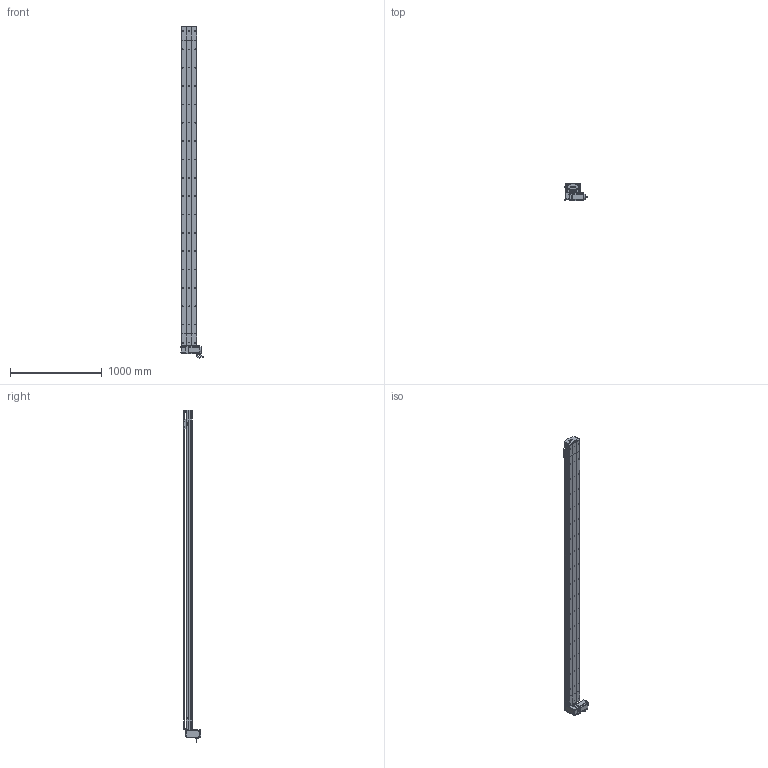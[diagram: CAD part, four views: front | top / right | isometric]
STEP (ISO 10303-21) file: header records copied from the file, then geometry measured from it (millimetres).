
FILE_DESCRIPTION (( 'STEP AP214' ), '1' );
FILE_NAME ('D17 TBN RU S3200.STEP', '2010-06-30T13:36:10', ( 'Conseil Régional Haute-Normandie' ), ( 'Conseil Régional Haute-Normandie' ), 'SwSTEP 2.0', 'SolidWorks 2010', '' );
FILE_SCHEMA (( 'AUTOMOTIVE_DESIGN' ));
Length unit declared in the file: millimetre
Products named in the file (40): vis M5 L12_Default; couvercle D17B_Default; vis M5 L8 90°_Default; Couroie tail D17B_Default; poulie tail_Default; plaque de  bout tail D17B_Default; Rail D17B; tete d''axe poulie D17B; corpl tail D17B_Default; Tail D17B_Default; vis M5 L16_Default; Plaque racord D17_Default; vis M5 L70_Default; Renvoi RU_Default; cache arbre D17_Default; Vis M5 L16-2_Default; Conecteur_Default; guide D17; Chariot D17 TBN; chariot D17 TBN; vis M5 L25_Default; Couroie+ rail D17 Course 3200 ; course 3200 D17B_Default; D17 TBN RU S3200; Head RU D17B_Default; couvercle D17B course L3200_Default; corp D17B 3200_Default; plaque de  bout head D17B RU_Default; couvercle D17B head_Default; corpl head D17 _Default; vis M5 L5_Default; cache D17_Default; Arbre+rail head D17B; avant 90BLDC125A-640; Moteur motionking 90BLDC125A-640; couroie head D17_Default; poulie head_Default; Conecteur2_Default; codeur 90BLDC125-640; corps 90BLDC125A-640
Assembly tree (66 placements, depth 4):
  D17 TBN RU S3200
    Tail D17B_Default
      vis M5 L12_Default  x4
      plaque de  bout tail D17B_Default
      tete d''axe poulie D17B
      vis M5 L8 90°_Default  x2
      Couroie tail D17B_Default
      corpl tail D17B_Default
      vis M5 L25_Default  x2
      poulie tail_Default
      couvercle D17B_Default
      Rail D17B
    course 3200 D17B_Default
      couvercle D17B course L3200_Default
      Couroie+ rail D17 Course 3200 
      corp D17B 3200_Default
    chariot D17 TBN
      guide D17  x2
      Chariot D17 TBN
    Head RU D17B_Default
      vis M5 L12_Default  x8
      cache arbre D17_Default
      vis M5 L16_Default  x2
      cache D17_Default  x2
      vis M5 L70_Default  x4
      Moteur motionking 90BLDC125A-640
        corps 90BLDC125A-640
        Conecteur_Default
        Conecteur2_Default
        avant 90BLDC125A-640
        codeur 90BLDC125-640
      vis M5 L5_Default  x4
      Vis M5 L16-2_Default  x4
      couroie head D17_Default
      poulie head_Default
      Renvoi RU_Default
      vis M5 L25_Default  x2
      Plaque racord D17_Default
      Arbre+rail head D17B
      plaque de  bout head D17B RU_Default
      corpl head D17 _Default
      couvercle D17B head_Default
Bounding box: 245.2 x 188.65 x 3617.95 mm (x, y, z)
Volume: 20353442.6 mm3; surface area: 5960495.2 mm2
Topology: 89 solids, 89 shells, 2663 faces, 6869 edges, 4426 vertices
Faces by surface type: plane 1533, cylinder 833, bspline 136, cone 80, torus 77, sphere 4
Entity records: 86915 total; most frequent: CARTESIAN_POINT 25715, ORIENTED_EDGE 10910, DIRECTION 10292, EDGE_CURVE 5455, VERTEX_POINT 3570, LINE 3538, VECTOR 3538, AXIS2_PLACEMENT_3D 3377
